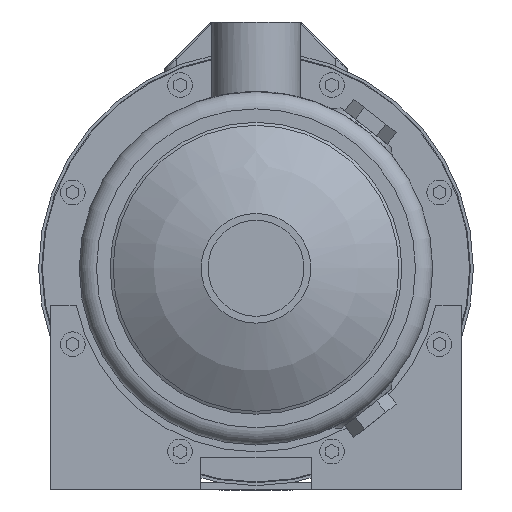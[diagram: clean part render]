
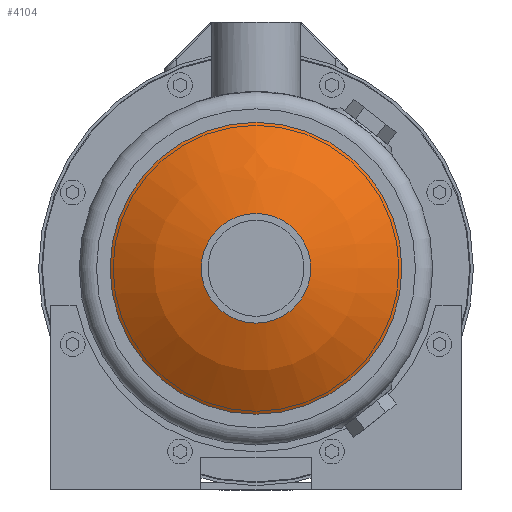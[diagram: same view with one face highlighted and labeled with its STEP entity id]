
A CAD part, left-side view. The second image highlights one B-rep face of the part: STEP entity #4104.
In plain terms, the highlighted spherical face has radius 100 mm.
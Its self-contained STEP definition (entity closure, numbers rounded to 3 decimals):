
#63=SPHERICAL_SURFACE('',#5494,100.);
#950=ORIENTED_EDGE('',*,*,#2059,.T.);
#951=ORIENTED_EDGE('',*,*,#2058,.F.);
#2058=EDGE_CURVE('',#2617,#2617,#3000,.T.);
#2059=EDGE_CURVE('',#2618,#2618,#3001,.T.);
#2617=VERTEX_POINT('',#7339);
#2618=VERTEX_POINT('',#7342);
#3000=CIRCLE('',#5493,22.25);
#3001=CIRCLE('',#5495,59.25);
#3186=EDGE_LOOP('',(#950));
#3187=EDGE_LOOP('',(#951));
#3571=FACE_BOUND('',#3186,.T.);
#3572=FACE_BOUND('',#3187,.T.);
#4104=ADVANCED_FACE('',(#3571,#3572),#63,.T.);
#5493=AXIS2_PLACEMENT_3D('',#7338,#5996,#5997);
#5494=AXIS2_PLACEMENT_3D('',#7340,#5998,#5999);
#5495=AXIS2_PLACEMENT_3D('',#7341,#6000,#6001);
#5996=DIRECTION('',(-1.,0.,0.));
#5997=DIRECTION('',(0.,0.,1.));
#5998=DIRECTION('',(-1.,0.,0.));
#5999=DIRECTION('',(0.,0.,1.));
#6000=DIRECTION('',(-1.,0.,0.));
#6001=DIRECTION('',(0.,0.,1.));
#7338=CARTESIAN_POINT('',(-67.293,0.,0.));
#7339=CARTESIAN_POINT('',(-67.293,0.,22.25));
#7340=CARTESIAN_POINT('',(30.2,0.,0.));
#7341=CARTESIAN_POINT('',(-50.357,0.,0.));
#7342=CARTESIAN_POINT('',(-50.357,0.,59.25));
